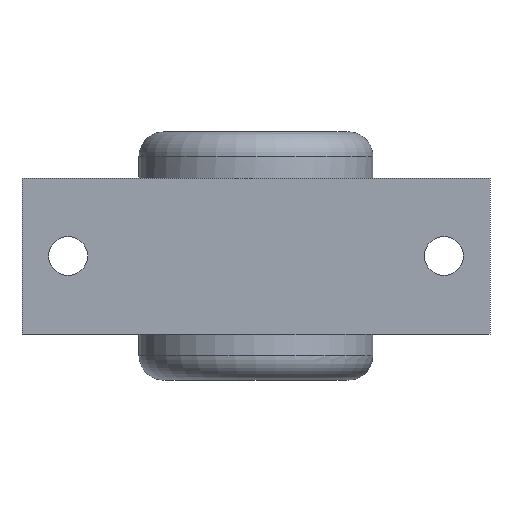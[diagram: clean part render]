
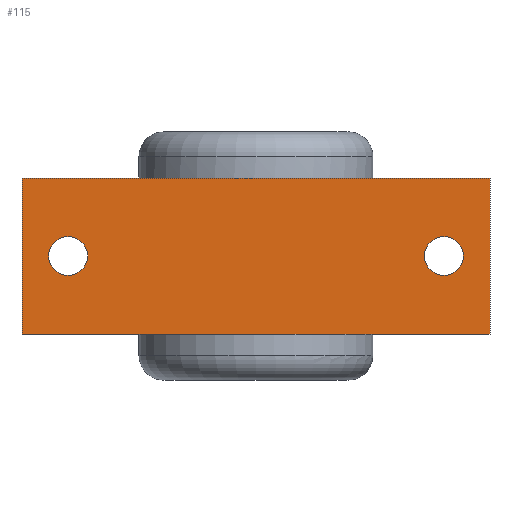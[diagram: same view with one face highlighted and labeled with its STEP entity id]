
A CAD part, front view. The second image highlights one B-rep face of the part: STEP entity #115.
In plain terms, the highlighted planar face has unit normal (0, -1, 0).
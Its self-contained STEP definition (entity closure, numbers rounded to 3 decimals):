
#115=ADVANCED_FACE('',(#229,#230,#231),#232,.T.);
#229=FACE_BOUND('',#368,.T.);
#230=FACE_OUTER_BOUND('',#369,.T.);
#231=FACE_BOUND('',#370,.T.);
#232=PLANE('',#371);
#368=EDGE_LOOP('',(#721));
#369=EDGE_LOOP('',(#722,#723,#724,#725));
#370=EDGE_LOOP('',(#726));
#371=AXIS2_PLACEMENT_3D('',#727,#728,#729);
#721=ORIENTED_EDGE('',*,*,#1014,.T.);
#722=ORIENTED_EDGE('',*,*,#993,.F.);
#723=ORIENTED_EDGE('',*,*,#999,.F.);
#724=ORIENTED_EDGE('',*,*,#988,.T.);
#725=ORIENTED_EDGE('',*,*,#1007,.T.);
#726=ORIENTED_EDGE('',*,*,#1012,.T.);
#727=CARTESIAN_POINT('',(33.0,0.0,11.0));
#728=DIRECTION('',(0.0,-1.0,0.0));
#729=DIRECTION('',(1.0,0.0,0.0));
#988=EDGE_CURVE('',#1213,#1211,#1214,.T.);
#993=EDGE_CURVE('',#1219,#1221,#1222,.T.);
#999=EDGE_CURVE('',#1213,#1219,#1231,.T.);
#1007=EDGE_CURVE('',#1211,#1221,#1242,.T.);
#1012=EDGE_CURVE('',#1248,#1248,#1249,.F.);
#1014=EDGE_CURVE('',#1251,#1251,#1252,.F.);
#1211=VERTEX_POINT('',#1549);
#1213=VERTEX_POINT('',#1552);
#1214=LINE('',#1553,#1554);
#1219=VERTEX_POINT('',#1561);
#1221=VERTEX_POINT('',#1564);
#1222=LINE('',#1565,#1566);
#1231=LINE('',#1579,#1580);
#1242=LINE('',#1597,#1598);
#1248=VERTEX_POINT('',#1607);
#1249=CIRCLE('',#1608,2.75);
#1251=VERTEX_POINT('',#1611);
#1252=CIRCLE('',#1612,2.75);
#1549=CARTESIAN_POINT('',(-33.0,0.0,11.0));
#1552=CARTESIAN_POINT('',(33.0,0.,11.0));
#1553=CARTESIAN_POINT('',(33.0,0.0,11.0));
#1554=VECTOR('',#1852,1.0);
#1561=CARTESIAN_POINT('',(33.0,0.,-11.0));
#1564=CARTESIAN_POINT('',(-33.0,0.0,-11.0));
#1565=CARTESIAN_POINT('',(33.0,0.0,-11.0));
#1566=VECTOR('',#1859,1.0);
#1579=CARTESIAN_POINT('',(33.0,0.,11.0));
#1580=VECTOR('',#1867,1.0);
#1597=CARTESIAN_POINT('',(-33.0,0.0,11.0));
#1598=VECTOR('',#1877,1.0);
#1607=CARTESIAN_POINT('',(26.5,0.0,-2.75));
#1608=AXIS2_PLACEMENT_3D('',#1884,#1885,#1886);
#1611=CARTESIAN_POINT('',(-26.5,0.0,-2.75));
#1612=AXIS2_PLACEMENT_3D('',#1888,#1889,#1890);
#1852=DIRECTION('',(-1.0,0.0,0.0));
#1859=DIRECTION('',(-1.0,0.0,0.0));
#1867=DIRECTION('',(0.0,0.0,-1.0));
#1877=DIRECTION('',(0.0,0.0,-1.0));
#1884=CARTESIAN_POINT('',(26.5,0.0,0.0));
#1885=DIRECTION('',(0.0,-1.0,0.0));
#1886=DIRECTION('',(0.0,0.0,-1.0));
#1888=CARTESIAN_POINT('',(-26.5,0.0,0.0));
#1889=DIRECTION('',(0.0,-1.0,0.0));
#1890=DIRECTION('',(0.0,0.0,-1.0));
